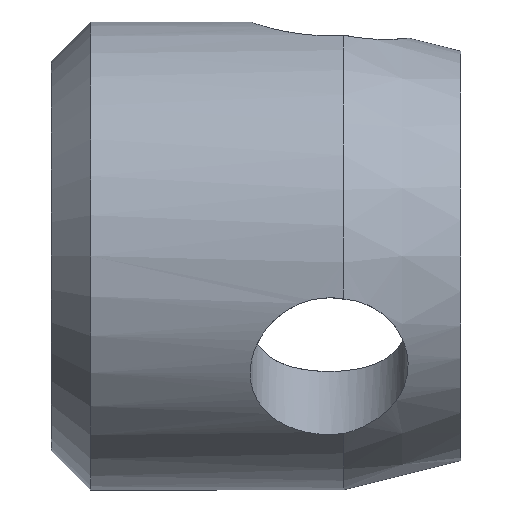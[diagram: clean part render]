
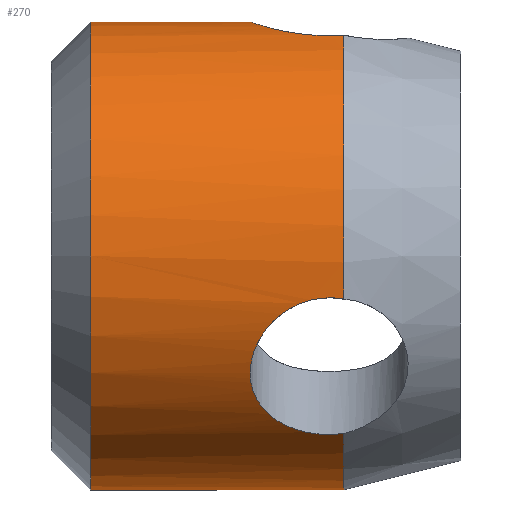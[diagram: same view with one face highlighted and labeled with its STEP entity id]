
A CAD part, front view. The second image highlights one B-rep face of the part: STEP entity #270.
In plain terms, the highlighted cylindrical face has radius 4 mm (diameter 8 mm), a partial arc.
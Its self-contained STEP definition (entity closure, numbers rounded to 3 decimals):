
#2 = CARTESIAN_POINT ( 'NONE',  ( -2., -1.327, 3.774 ) ) ;
#32 = VERTEX_POINT ( 'NONE', #2 ) ;
#33 = CARTESIAN_POINT ( 'NONE',  ( -2.197, -1.353, 3.764 ) ) ;
#34 = DIRECTION ( 'NONE',  ( 1., 0., 0. ) ) ;
#42 = CARTESIAN_POINT ( 'NONE',  ( -3.589, -0.201, 3.996 ) ) ;
#47 = CARTESIAN_POINT ( 'NONE',  ( -3.6, -0.1, 4. ) ) ;
#60 = CARTESIAN_POINT ( 'NONE',  ( -3.6, -3.464, -2. ) ) ;
#64 = VERTEX_POINT ( 'NONE', #670 ) ;
#94 = CARTESIAN_POINT ( 'NONE',  ( -3.589, -3.56, -1.826 ) ) ;
#117 = CARTESIAN_POINT ( 'NONE',  ( -2.098, -1.345, 3.767 ) ) ;
#127 = AXIS2_PLACEMENT_3D ( 'NONE', #862, #632, #338 ) ;
#138 = CARTESIAN_POINT ( 'NONE',  ( -2., 0., -4. ) ) ;
#157 = AXIS2_PLACEMENT_3D ( 'NONE', #913, #833, #236 ) ;
#165 = ORIENTED_EDGE ( 'NONE', *, *, #492, .T. ) ;
#168 = CARTESIAN_POINT ( 'NONE',  ( -2., -3.931, -0.738 ) ) ;
#170 = CARTESIAN_POINT ( 'NONE',  ( -3.6, 0., 4. ) ) ;
#171 = EDGE_CURVE ( 'NONE', #224, #326, #461, .T. ) ;
#173 = CARTESIAN_POINT ( 'NONE',  ( -3.546, -3.644, -1.652 ) ) ;
#174 = CARTESIAN_POINT ( 'NONE',  ( -3.188, -0.976, 3.88 ) ) ;
#182 = ORIENTED_EDGE ( 'NONE', *, *, #171, .T. ) ;
#185 = CYLINDRICAL_SURFACE ( 'NONE', #845, 4. ) ;
#188 = CARTESIAN_POINT ( 'NONE',  ( -2.396, -1.346, 3.767 ) ) ;
#189 = CARTESIAN_POINT ( 'NONE',  ( -2.396, -2.589, -3.049 ) ) ;
#192 = ORIENTED_EDGE ( 'NONE', *, *, #397, .T. ) ;
#195 = VERTEX_POINT ( 'NONE', #846 ) ;
#204 = DIRECTION ( 'NONE',  ( 1., 0., 0. ) ) ;
#214 = VERTEX_POINT ( 'NONE', #138 ) ;
#224 = VERTEX_POINT ( 'NONE', #60 ) ;
#236 = DIRECTION ( 'NONE',  ( 0., 0., 1. ) ) ;
#238 = CARTESIAN_POINT ( 'NONE',  ( -2.78, -3.915, -0.822 ) ) ;
#240 = CARTESIAN_POINT ( 'NONE',  ( -3.513, -0.487, 3.971 ) ) ;
#243 = CARTESIAN_POINT ( 'NONE',  ( -2.399, -3.937, -0.707 ) ) ;
#250 = CARTESIAN_POINT ( 'NONE',  ( -3.6, -3.464, -2. ) ) ;
#251 = EDGE_LOOP ( 'NONE', ( #369, #192, #661, #450, #165, #182, #638, #593 ) ) ;
#254 = CARTESIAN_POINT ( 'NONE',  ( -3.387, -3.783, -1.313 ) ) ;
#256 = CARTESIAN_POINT ( 'NONE',  ( -3.188, -2.872, -2.785 ) ) ;
#260 = CARTESIAN_POINT ( 'NONE',  ( -3.589, -3.36, -2.172 ) ) ;
#270 = ADVANCED_FACE ( 'NONE', ( #711 ), #185, .T. ) ;
#275 = EDGE_CURVE ( 'NONE', #32, #326, #717, .T. ) ;
#278 = DIRECTION ( 'NONE',  ( 1., 0., 0. ) ) ;
#295 = CIRCLE ( 'NONE', #157, 4. ) ;
#317 = CARTESIAN_POINT ( 'NONE',  ( -3.257, -2.923, -2.732 ) ) ;
#322 = CARTESIAN_POINT ( 'NONE',  ( -3.545, -3.252, -2.332 ) ) ;
#326 = VERTEX_POINT ( 'NONE', #581 ) ;
#338 = DIRECTION ( 'NONE',  ( 0., 0., -1. ) ) ;
#356 = VECTOR ( 'NONE', #204, 1000. ) ;
#369 = ORIENTED_EDGE ( 'NONE', *, *, #485, .F. ) ;
#390 = CARTESIAN_POINT ( 'NONE',  ( -2.962, -1.164, 3.829 ) ) ;
#397 = EDGE_CURVE ( 'NONE', #724, #64, #295, .T. ) ;
#408 = CARTESIAN_POINT ( 'NONE',  ( -3.257, -0.904, 3.897 ) ) ;
#421 = CARTESIAN_POINT ( 'NONE',  ( -2., -2.605, -3.036 ) ) ;
#422 = B_SPLINE_CURVE_WITH_KNOTS ( 'NONE', 3,
 ( #849, #117, #33, #188, #922, #709, #390, #174, #408, #463, #704, #240, #470, #42, #47, #170 ),
 .UNSPECIFIED., .F., .F.,
 ( 4, 2, 2, 2, 2, 2, 2, 4 ),
 ( 0., 0., 0.001, 0.001, 0.001, 0.002, 0.002, 0.002 ),
 .UNSPECIFIED. ) ;
#423 = CARTESIAN_POINT ( 'NONE',  ( 21.562, 0., 0. ) ) ;
#431 = DIRECTION ( 'NONE',  ( 0., 0., -1. ) ) ;
#450 = ORIENTED_EDGE ( 'NONE', *, *, #903, .F. ) ;
#461 = B_SPLINE_CURVE_WITH_KNOTS ( 'NONE', 3,
 ( #250, #548, #94, #173, #688, #254, #612, #920, #915, #238, #539, #243, #841, #168 ),
 .UNSPECIFIED., .F., .F.,
 ( 4, 2, 2, 2, 2, 2, 4 ),
 ( 0.002, 0.003, 0.003, 0.004, 0.004, 0.004, 0.005 ),
 .UNSPECIFIED. ) ;
#463 = CARTESIAN_POINT ( 'NONE',  ( -3.377, -0.75, 3.93 ) ) ;
#466 = VECTOR ( 'NONE', #34, 1000. ) ;
#470 = CARTESIAN_POINT ( 'NONE',  ( -3.545, -0.394, 3.982 ) ) ;
#485 = EDGE_CURVE ( 'NONE', #724, #195, #561, .T. ) ;
#489 = CARTESIAN_POINT ( 'NONE',  ( -2.962, -2.734, -2.922 ) ) ;
#492 = EDGE_CURVE ( 'NONE', #613, #224, #965, .T. ) ;
#539 = CARTESIAN_POINT ( 'NONE',  ( -2.689, -3.922, -0.786 ) ) ;
#548 = CARTESIAN_POINT ( 'NONE',  ( -3.6, -3.514, -1.913 ) ) ;
#551 = CARTESIAN_POINT ( 'NONE',  ( -2.197, -2.584, -3.054 ) ) ;
#561 = LINE ( 'NONE', #631, #466 ) ;
#569 = CARTESIAN_POINT ( 'NONE',  ( -2.496, -2.601, -3.039 ) ) ;
#581 = CARTESIAN_POINT ( 'NONE',  ( -2., -3.931, -0.738 ) ) ;
#593 = ORIENTED_EDGE ( 'NONE', *, *, #868, .T. ) ;
#612 = CARTESIAN_POINT ( 'NONE',  ( -3.264, -3.831, -1.158 ) ) ;
#613 = VERTEX_POINT ( 'NONE', #421 ) ;
#631 = CARTESIAN_POINT ( 'NONE',  ( 21.562, 0., 4. ) ) ;
#632 = DIRECTION ( 'NONE',  ( 1., 0., 0. ) ) ;
#638 = ORIENTED_EDGE ( 'NONE', *, *, #275, .F. ) ;
#641 = CIRCLE ( 'NONE', #896, 4. ) ;
#651 = EDGE_CURVE ( 'NONE', #64, #214, #791, .T. ) ;
#656 = CARTESIAN_POINT ( 'NONE',  ( -2., 0., 0. ) ) ;
#661 = ORIENTED_EDGE ( 'NONE', *, *, #651, .T. ) ;
#662 = DIRECTION ( 'NONE',  ( 1., 0., 0. ) ) ;
#670 = CARTESIAN_POINT ( 'NONE',  ( -6.325, 0., -4. ) ) ;
#688 = CARTESIAN_POINT ( 'NONE',  ( -3.513, -3.683, -1.564 ) ) ;
#697 = CARTESIAN_POINT ( 'NONE',  ( -3.377, -3.028, -2.614 ) ) ;
#702 = CARTESIAN_POINT ( 'NONE',  ( -3.428, -3.084, -2.55 ) ) ;
#704 = CARTESIAN_POINT ( 'NONE',  ( -3.428, -0.666, 3.945 ) ) ;
#709 = CARTESIAN_POINT ( 'NONE',  ( -2.782, -1.256, 3.798 ) ) ;
#711 = FACE_OUTER_BOUND ( 'NONE', #251, .T. ) ;
#717 = CIRCLE ( 'NONE', #127, 4. ) ;
#724 = VERTEX_POINT ( 'NONE', #818 ) ;
#768 = CARTESIAN_POINT ( 'NONE',  ( -3.6, -3.414, -2.087 ) ) ;
#784 = DIRECTION ( 'NONE',  ( 0., 0., -1. ) ) ;
#788 = CARTESIAN_POINT ( 'NONE',  ( -2., -2.605, -3.036 ) ) ;
#791 = LINE ( 'NONE', #887, #356 ) ;
#818 = CARTESIAN_POINT ( 'NONE',  ( -6.325, 0., 4. ) ) ;
#833 = DIRECTION ( 'NONE',  ( 1., 0., 0. ) ) ;
#841 = CARTESIAN_POINT ( 'NONE',  ( -2.197, -3.939, -0.699 ) ) ;
#845 = AXIS2_PLACEMENT_3D ( 'NONE', #423, #278, #784 ) ;
#846 = CARTESIAN_POINT ( 'NONE',  ( -3.6, 0., 4. ) ) ;
#849 = CARTESIAN_POINT ( 'NONE',  ( -2., -1.327, 3.774 ) ) ;
#856 = CARTESIAN_POINT ( 'NONE',  ( -3.513, -3.196, -2.407 ) ) ;
#862 = CARTESIAN_POINT ( 'NONE',  ( -2., 0., 0. ) ) ;
#866 = CARTESIAN_POINT ( 'NONE',  ( -2.098, -2.59, -3.049 ) ) ;
#868 = EDGE_CURVE ( 'NONE', #32, #195, #422, .T. ) ;
#872 = CARTESIAN_POINT ( 'NONE',  ( -3.6, -3.464, -2. ) ) ;
#887 = CARTESIAN_POINT ( 'NONE',  ( 21.562, 0., -4. ) ) ;
#896 = AXIS2_PLACEMENT_3D ( 'NONE', #656, #662, #431 ) ;
#903 = EDGE_CURVE ( 'NONE', #613, #214, #641, .T. ) ;
#913 = CARTESIAN_POINT ( 'NONE',  ( -6.325, 0., 0. ) ) ;
#915 = CARTESIAN_POINT ( 'NONE',  ( -2.955, -3.894, -0.914 ) ) ;
#920 = CARTESIAN_POINT ( 'NONE',  ( -3.038, -3.881, -0.97 ) ) ;
#922 = CARTESIAN_POINT ( 'NONE',  ( -2.496, -1.331, 3.772 ) ) ;
#943 = CARTESIAN_POINT ( 'NONE',  ( -2.782, -2.661, -2.987 ) ) ;
#965 = B_SPLINE_CURVE_WITH_KNOTS ( 'NONE', 3,
 ( #788, #866, #551, #189, #569, #943, #489, #256, #317, #697, #702, #856, #322, #260, #768, #872 ),
 .UNSPECIFIED., .F., .F.,
 ( 4, 2, 2, 2, 2, 2, 2, 4 ),
 ( 0., 0., 0.001, 0.001, 0.001, 0.002, 0.002, 0.002 ),
 .UNSPECIFIED. ) ;
